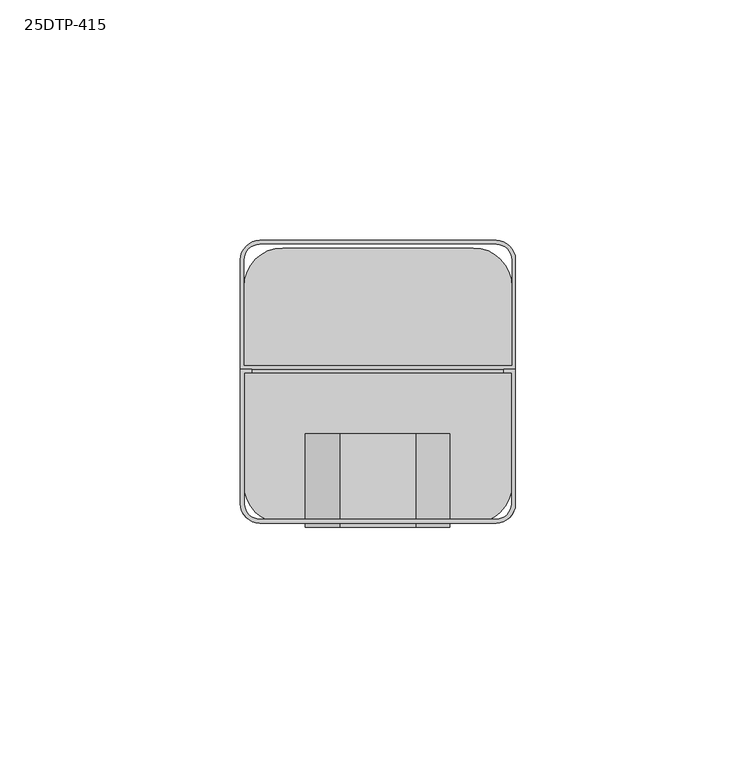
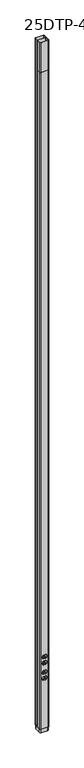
"""IFC4 building model written with IfcOpenShell, lengths in millimetres: proxy geometry, Vertical_Drop_Poles-Wiremold-Steel_Tele-Power_Pole : 25DTP-415."""

from ifc_helpers import new_model, si_unit, point, frame, frame_2d, origin, origin_with_axes, place, context, project, spatial, polyline, circle_curve, trimmed, segment, composite_curve, outline, extrude, source, transform, mapped, element, save


def proxy_25dtp_415_fe98ae71(model_context):
    return source(origin(), model_context, "Body", "SweptSolid", [
        extrude(outline(composite_curve([segment(polyline([(28.575, 31.25), (28.575, 3.25)]), True, "CONTINUOUS"), segment(trimmed(circle_curve(frame_2d((24.575, 3.25)), 4.0), [point((28.575, 3.25))], [point((24.575, -0.75))], False, "CARTESIAN"), True, "CONTINUOUS"), segment(polyline([(24.575, -0.75), (-24.575, -0.75)]), True, "CONTINUOUS"), segment(trimmed(circle_curve(frame_2d((-24.575, 3.25)), 4.0), [point((-24.575, -0.75))], [point((-28.575, 3.25))], False, "CARTESIAN"), True, "CONTINUOUS"), segment(polyline([(-28.575, 3.25), (-28.575, 31.25), (-26.1875, 31.25), (-26.1875, 30.45), (-27.775, 30.45), (-27.775, 3.25)]), True, "CONTINUOUS"), segment(trimmed(circle_curve(frame_2d((-24.575, 3.25)), 3.2), [point((-27.775, 3.25))], [point((-24.575, 0.05))], True, "CARTESIAN"), True, "CONTINUOUS"), segment(polyline([(-24.575, 0.05), (24.575, 0.05)]), True, "CONTINUOUS"), segment(trimmed(circle_curve(frame_2d((24.575, 3.25)), 3.2), [point((24.575, 0.05))], [point((27.775, 3.25))], True, "CARTESIAN"), True, "CONTINUOUS"), segment(polyline([(27.775, 3.25), (27.775, 30.45), (26.1875, 30.45), (26.1875, 31.25), (28.575, 31.25)]), True, "CONTINUOUS")], self_intersect=False)), frame((0.0, 0.0, 4495.8), z_axis=(0.0, 0.0, 1.0), x_axis=(1.0, 0.0, 0.0)), (0.0, 0.0, 1.0), 203.2),
        extrude(outline(composite_curve([segment(trimmed(circle_curve(frame_2d((488.7029331, -1.1591271)), 13.933707), [point((500.85, -7.9853234))], [point((488.7029331, -15.092834))], False, "CARTESIAN"), True, "CONTINUOUS"), segment(polyline([(488.7029331, -15.092834), (486.7854081, -15.092834)]), True, "CONTINUOUS"), segment(trimmed(circle_curve(frame_2d((486.7854081, -0.9909304)), 14.1019036), [point((486.7854081, -15.092834))], [point((474.85, -8.5015708))], False, "CARTESIAN"), True, "CONTINUOUS"), segment(polyline([(474.85, -8.5015708), (474.85, 8.5041234)]), True, "CONTINUOUS"), segment(trimmed(circle_curve(frame_2d((486.6576313, 0.982166)), 14.0), [point((474.85, 8.5041234))], [point((486.6576313, 14.982166))], False, "CARTESIAN"), True, "CONTINUOUS"), segment(polyline([(486.6576313, 14.982166), (488.7451343, 14.982166)]), True, "CONTINUOUS"), segment(trimmed(circle_curve(frame_2d((488.7451343, 0.9958893)), 13.9862766), [point((488.7451343, 14.982166))], [point((500.85, 8.0021838))], False, "CARTESIAN"), True, "CONTINUOUS"), segment(polyline([(500.85, 8.0021838), (500.85, -7.9853234)]), True, "CONTINUOUS")], self_intersect=False), holes=[polyline([(486.9892021, -5.530934), (479.0517021, -5.530934), (479.0517021, -7.1202895), (486.9892021, -7.1202895), (486.9892021, -5.530934)]), polyline([(479.8454521, 5.29348), (486.1954521, 5.29348), (486.1954521, 6.8797105), (479.8454521, 6.8797105), (479.8454521, 5.29348)]), composite_curve([segment(polyline([(497.4329521, 2.240599), (494.2579521, 2.240599)]), True, "CONTINUOUS"), segment(trimmed(circle_curve(frame_2d((494.2579521, -0.140651)), 2.38125), [point((494.2579521, 2.240599))], [point((494.2579521, -2.521901))], True, "CARTESIAN"), True, "CONTINUOUS"), segment(polyline([(494.2579521, -2.521901), (497.4329521, -2.521901), (497.4329521, 2.240599)]), True, "CONTINUOUS")], self_intersect=False)]), frame((0.0, -0.8603814, 0.0), z_axis=(0.0, 1.0, 0.0), x_axis=(0.0, 0.0, 1.0)), (0.0, 0.0, 1.0), 19.3625),
        extrude(outline(composite_curve([segment(polyline([(459.05, 8.7098868), (459.05, -8.7111214)]), True, "CONTINUOUS"), segment(trimmed(circle_curve(frame_2d((447.3453879, -1.1683429)), 13.9244911), [point((459.05, -8.7111214))], [point((447.3453879, -15.092834))], False, "CARTESIAN"), True, "CONTINUOUS"), segment(polyline([(447.3453879, -15.092834), (445.4207127, -15.092834)]), True, "CONTINUOUS"), segment(trimmed(circle_curve(frame_2d((445.4207127, -0.9820385)), 14.1107955), [point((445.4207127, -15.092834))], [point((433.05, -7.7702649))], False, "CARTESIAN"), True, "CONTINUOUS"), segment(polyline([(433.05, -7.7702649), (433.05, 7.7817126)]), True, "CONTINUOUS"), segment(trimmed(circle_curve(frame_2d((445.293109, 0.9733088)), 14.0088572), [point((433.05, 7.7817126))], [point((445.293109, 14.982166))], False, "CARTESIAN"), True, "CONTINUOUS"), segment(polyline([(445.293109, 14.982166), (447.3875692, 14.982166)]), True, "CONTINUOUS"), segment(trimmed(circle_curve(frame_2d((447.3875692, 1.0036923)), 13.9784736), [point((447.3875692, 14.982166))], [point((459.05, 8.7098868))], False, "CARTESIAN"), True, "CONTINUOUS")], self_intersect=False), holes=[polyline([(445.5892021, -5.6947448), (437.6517021, -5.6947448), (437.6517021, -7.2841003), (445.5892021, -7.2841003), (445.5892021, -5.6947448)]), polyline([(438.4454521, 5.29348), (444.7954521, 5.29348), (444.7954521, 6.8797105), (438.4454521, 6.8797105), (438.4454521, 5.29348)]), composite_curve([segment(polyline([(456.0329521, 2.240599), (452.8579521, 2.240599)]), True, "CONTINUOUS"), segment(trimmed(circle_curve(frame_2d((452.8579521, -0.140651)), 2.38125), [point((452.8579521, 2.240599))], [point((452.8579521, -2.521901))], True, "CARTESIAN"), True, "CONTINUOUS"), segment(polyline([(452.8579521, -2.521901), (456.0329521, -2.521901), (456.0329521, 2.240599)]), True, "CONTINUOUS")], self_intersect=False)]), frame((0.0, -0.8603814, 0.0), z_axis=(0.0, 1.0, 0.0), x_axis=(0.0, 0.0, 1.0)), (0.0, 0.0, 1.0), 19.3625),
        extrude(outline(composite_curve([segment(trimmed(circle_curve(frame_2d((19.825, 49.2375)), 8.0), [point((19.825, 57.2375))], [point((27.825, 49.2375))], False, "CARTESIAN"), True, "CONTINUOUS"), segment(polyline([(27.825, 49.2375), (27.825, 8.0)]), True, "CONTINUOUS"), segment(trimmed(circle_curve(frame_2d((19.825, 8.0)), 8.0), [point((27.825, 8.0))], [point((19.825, 0.0))], False, "CARTESIAN"), True, "CONTINUOUS"), segment(polyline([(19.825, 0.0), (-19.825, 0.0)]), True, "CONTINUOUS"), segment(trimmed(circle_curve(frame_2d((-19.825, 8.0)), 8.0), [point((-19.825, 0.0))], [point((-27.825, 8.0))], False, "CARTESIAN"), True, "CONTINUOUS"), segment(polyline([(-27.825, 8.0), (-27.825, 49.2375)]), True, "CONTINUOUS"), segment(trimmed(circle_curve(frame_2d((-19.825, 49.2375)), 8.0), [point((-27.825, 49.2375))], [point((-19.825, 57.2375))], False, "CARTESIAN"), True, "CONTINUOUS"), segment(polyline([(-19.825, 57.2375), (19.825, 57.2375)]), True, "CONTINUOUS")], self_intersect=False)), frame((0.0, 0.0, -25.4), z_axis=(0.0, 0.0, 1.0), x_axis=(1.0, 0.0, 0.0)), (0.0, 0.0, 1.0), 25.4),
        extrude(outline(composite_curve([segment(trimmed(circle_curve(frame_2d((382.9267215, -1.3683703)), 13.514578), [point((394.7420503, -7.9289972))], [point((382.9267215, -14.8829484))], False, "CARTESIAN"), True, "CONTINUOUS"), segment(polyline([(382.9267215, -14.8829484), (381.1701673, -14.8829484)]), True, "CONTINUOUS"), segment(trimmed(circle_curve(frame_2d((381.1701673, -0.7955272)), 14.0874212), [point((381.1701673, -14.8829484))], [point((369.2960251, -8.3757767))], False, "CARTESIAN"), True, "CONTINUOUS"), segment(polyline([(369.2960251, -8.3757767), (369.2960251, 8.3803147)]), True, "CONTINUOUS"), segment(trimmed(circle_curve(frame_2d((380.7601645, 0.7899761)), 13.749172), [point((369.2960251, 8.3803147))], [point((380.7601645, 14.5391481))], False, "CARTESIAN"), True, "CONTINUOUS"), segment(polyline([(380.7601645, 14.5391481), (382.9712291, 14.5391481)]), True, "CONTINUOUS"), segment(trimmed(circle_curve(frame_2d((382.9712291, 0.7346672)), 13.8044809), [point((382.9712291, 14.5391481))], [point((394.7420503, 7.9465645))], False, "CARTESIAN"), True, "CONTINUOUS"), segment(polyline([(394.7420503, 7.9465645), (394.7420503, -7.9289972)]), True, "CONTINUOUS")], self_intersect=False), holes=[polyline([(381.1730138, -5.530934), (373.5125012, -5.530934), (373.5125012, -7.1202895), (381.1730138, -7.1202895), (381.1730138, -5.530934)]), polyline([(374.3062512, 5.29348), (380.3792638, 5.29348), (380.3792638, 6.8797105), (374.3062512, 6.8797105), (374.3062512, 5.29348)]), composite_curve([segment(polyline([(391.6167638, 2.240599), (388.4417638, 2.240599)]), True, "CONTINUOUS"), segment(trimmed(circle_curve(frame_2d((388.4417638, -0.140651)), 2.38125), [point((388.4417638, 2.240599))], [point((388.4417638, -2.521901))], True, "CARTESIAN"), True, "CONTINUOUS"), segment(polyline([(388.4417638, -2.521901), (391.6167638, -2.521901), (391.6167638, 2.240599)]), True, "CONTINUOUS")], self_intersect=False)]), frame((0.0, -0.8603814, 0.0), z_axis=(0.0, 1.0, 0.0), x_axis=(0.0, 0.0, 1.0)), (0.0, 0.0, 1.0), 19.3625),
        extrude(outline(composite_curve([segment(polyline([(353.4960251, 8.732199), (353.4960251, -8.7339979)]), True, "CONTINUOUS"), segment(trimmed(circle_curve(frame_2d((341.9368061, -1.0863882)), 13.8600678), [point((353.4960251, -8.7339979))], [point((341.9368061, -14.946456))], False, "CARTESIAN"), True, "CONTINUOUS"), segment(polyline([(341.9368061, -14.946456), (340.151998, -14.946456)]), True, "CONTINUOUS"), segment(trimmed(circle_curve(frame_2d((340.151998, -1.1565771)), 13.7898789), [point((340.151998, -14.946456))], [point((328.05, -7.7673565))], False, "CARTESIAN"), True, "CONTINUOUS"), segment(polyline([(328.05, -7.7673565), (328.05, 7.7787932)]), True, "CONTINUOUS"), segment(trimmed(circle_curve(frame_2d((340.0358326, 0.6795122)), 13.930541), [point((328.05, 7.7787932))], [point((340.0358326, 14.6100532))], False, "CARTESIAN"), True, "CONTINUOUS"), segment(polyline([(340.0358326, 14.6100532), (342.2553533, 14.6100532)]), True, "CONTINUOUS"), segment(trimmed(circle_curve(frame_2d((342.2553533, 0.9229263)), 13.6871269), [point((342.2553533, 14.6100532))], [point((353.4960251, 8.732199))], False, "CARTESIAN"), True, "CONTINUOUS")], self_intersect=False), holes=[polyline([(340.3269886, -5.6947448), (332.6664761, -5.6947448), (332.6664761, -7.2841003), (340.3269886, -7.2841003), (340.3269886, -5.6947448)]), polyline([(333.4602261, 5.29348), (339.5332386, 5.29348), (339.5332386, 6.8797105), (333.4602261, 6.8797105), (333.4602261, 5.29348)]), composite_curve([segment(polyline([(350.4937512, 2.240599), (347.5957386, 2.240599)]), True, "CONTINUOUS"), segment(trimmed(circle_curve(frame_2d((347.5957386, -0.140651)), 2.38125), [point((347.5957386, 2.240599))], [point((347.5957386, -2.521901))], True, "CARTESIAN"), True, "CONTINUOUS"), segment(polyline([(347.5957386, -2.521901), (350.4937512, -2.521901), (350.4937512, 2.240599)]), True, "CONTINUOUS")], self_intersect=False)]), frame((0.0, -0.8603814, 0.0), z_axis=(0.0, 1.0, 0.0), x_axis=(0.0, 0.0, 1.0)), (0.0, 0.0, 1.0), 19.3625),
        extrude(outline(composite_curve([segment(trimmed(circle_curve(frame_2d((24.575, 53.9875)), 4.0), [point((24.575, 57.9875))], [point((28.575, 53.9875))], False, "CARTESIAN"), True, "CONTINUOUS"), segment(polyline([(28.575, 53.9875), (28.575, 31.25), (-28.575, 31.25), (-28.575, 53.9875)]), True, "CONTINUOUS"), segment(trimmed(circle_curve(frame_2d((-24.575, 53.9875)), 4.0), [point((-28.575, 53.9875))], [point((-24.575, 57.9875))], False, "CARTESIAN"), True, "CONTINUOUS"), segment(polyline([(-24.575, 57.9875), (24.575, 57.9875)]), True, "CONTINUOUS")], self_intersect=False), holes=[composite_curve([segment(polyline([(27.775, 32.05), (27.775, 53.9875)]), True, "CONTINUOUS"), segment(trimmed(circle_curve(frame_2d((24.575, 53.9875)), 3.2), [point((27.775, 53.9875))], [point((24.575, 57.1875))], True, "CARTESIAN"), True, "CONTINUOUS"), segment(polyline([(24.575, 57.1875), (-24.575, 57.1875)]), True, "CONTINUOUS"), segment(trimmed(circle_curve(frame_2d((-24.575, 53.9875)), 3.2), [point((-24.575, 57.1875))], [point((-27.775, 53.9875))], True, "CARTESIAN"), True, "CONTINUOUS"), segment(polyline([(-27.775, 53.9875), (-27.775, 32.05), (27.775, 32.05)]), True, "CONTINUOUS")], self_intersect=False)]), origin_with_axes(), (0.0, 0.0, 1.0), 4699.0),
        extrude(outline(composite_curve([segment(polyline([(28.575, 31.25), (28.575, 3.25)]), True, "CONTINUOUS"), segment(trimmed(circle_curve(frame_2d((24.575, 3.25)), 4.0), [point((28.575, 3.25))], [point((24.575, -0.75))], False, "CARTESIAN"), True, "CONTINUOUS"), segment(polyline([(24.575, -0.75), (-24.575, -0.75)]), True, "CONTINUOUS"), segment(trimmed(circle_curve(frame_2d((-24.575, 3.25)), 4.0), [point((-24.575, -0.75))], [point((-28.575, 3.25))], False, "CARTESIAN"), True, "CONTINUOUS"), segment(polyline([(-28.575, 3.25), (-28.575, 31.25), (28.575, 31.25)]), True, "CONTINUOUS")], self_intersect=False), holes=[composite_curve([segment(polyline([(-27.775, 30.45), (-27.775, 3.25)]), True, "CONTINUOUS"), segment(trimmed(circle_curve(frame_2d((-24.575, 3.25)), 3.2), [point((-27.775, 3.25))], [point((-24.575, 0.05))], True, "CARTESIAN"), True, "CONTINUOUS"), segment(polyline([(-24.575, 0.05), (24.575, 0.05)]), True, "CONTINUOUS"), segment(trimmed(circle_curve(frame_2d((24.575, 3.25)), 3.2), [point((24.575, 0.05))], [point((27.775, 3.25))], True, "CARTESIAN"), True, "CONTINUOUS"), segment(polyline([(27.775, 3.25), (27.775, 30.45), (-27.775, 30.45)]), True, "CONTINUOUS")], self_intersect=False)]), origin_with_axes(), (0.0, 0.0, 1.0), 4495.8),
    ])


if __name__ == "__main__":
    model = new_model("IFC4")
    model_context = context("Model", 3, world=origin())
    ifc_project = project(units=[si_unit("LENGTHUNIT", "METRE", prefix="MILLI")], contexts=[model_context])
    site = spatial("IfcSite", under=ifc_project)
    building = spatial("IfcBuilding", under=site)
    placement = place(None, origin())
    proxy_25dtp_415_shape = proxy_25dtp_415_fe98ae71(model_context)
    element("IfcBuildingElementProxy", 1, Name="Vertical_Drop_Poles-Wiremold-Steel_Tele-Power_Pole : 25DTP-415", ObjectType="Vertical_Drop_Poles-Wiremold-Steel_Tele-Power_Pole : 25DTP-415", at=placement, inside=building, context=model_context, shape_type="MappedRepresentation", body=[
        mapped(proxy_25dtp_415_shape, transform((0.0, 0.0, 0.0), x_axis=(1.0, 0.0, 0.0), y_axis=(0.0, 1.0, 0.0), z_axis=(0.0, 0.0, 1.0))),
    ])
    save(model, "model.ifc")
